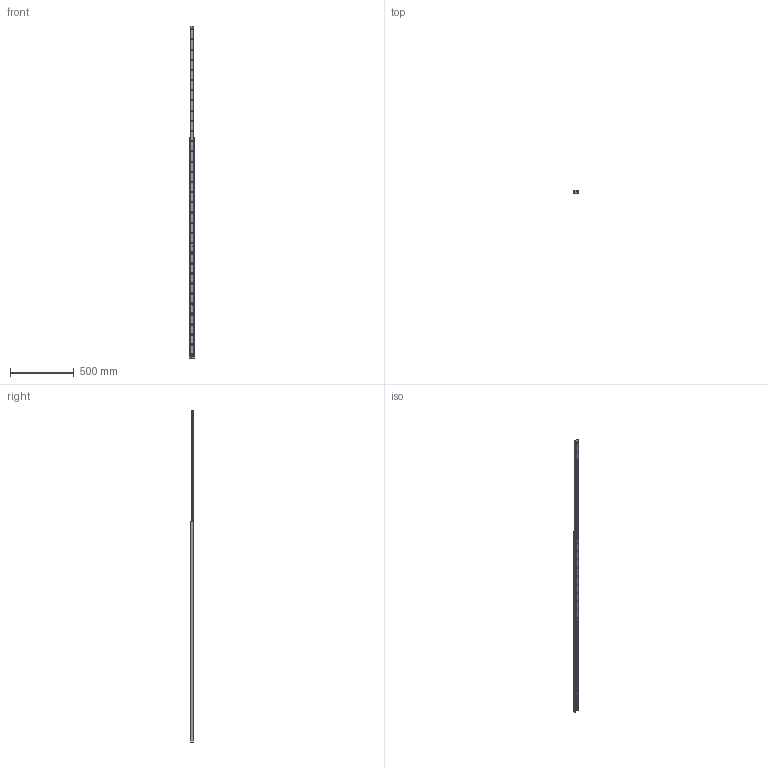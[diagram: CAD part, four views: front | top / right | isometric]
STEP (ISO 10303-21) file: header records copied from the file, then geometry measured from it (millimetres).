
FILE_DESCRIPTION(('STEP AP214'),'1');
FILE_NAME('rail_asn43-1730_01.stp','2017-06-06T10:17:43',('TraceParts'),('TraceParts S.A.'),'Spatial InterOp 3D',' ',' ');
FILE_SCHEMA(('automotive_design'));
Length unit declared in the file: millimetre
Products named in the file (2): rail_asn43-1730_01_1; rail_asn43-1730_01_2
Bounding box: 43 x 22.01 x 2608 mm (x, y, z)
Volume: 1052936.7 mm3; surface area: 406884 mm2
Topology: 2 solids, 2 shells, 297 faces, 732 edges, 444 vertices
Faces by surface type: cone 132, cylinder 119, plane 46
Entity records: 8986 total; most frequent: DIRECTION 1700, CARTESIAN_POINT 1475, ORIENTED_EDGE 1464, EDGE_CURVE 732, AXIS2_PLACEMENT_3D 669, VERTEX_POINT 444, EDGE_LOOP 390, CIRCLE 370
